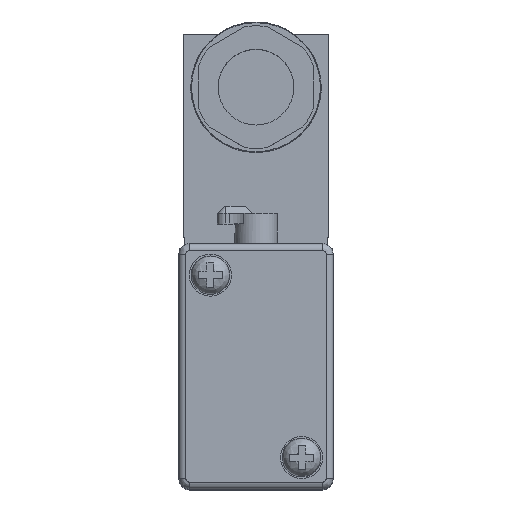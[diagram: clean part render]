
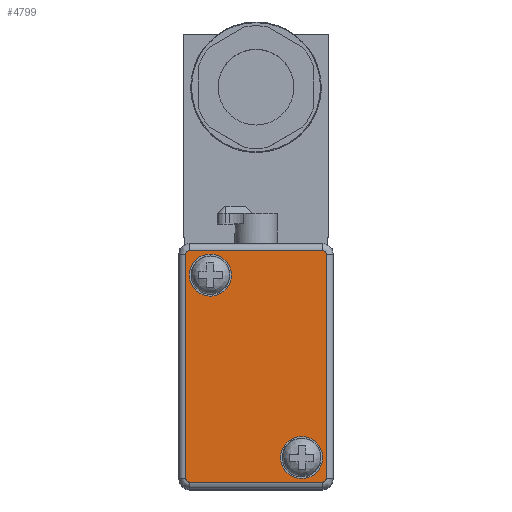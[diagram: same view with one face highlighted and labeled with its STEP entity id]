
A CAD part, top view. The second image highlights one B-rep face of the part: STEP entity #4799.
In plain terms, the highlighted planar face has unit normal (0, 0, 1).
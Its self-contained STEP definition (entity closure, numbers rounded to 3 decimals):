
#101=FACE_BOUND('',#645,.T.);
#102=FACE_BOUND('',#646,.T.);
#366=FACE_OUTER_BOUND('',#644,.T.);
#644=EDGE_LOOP('',(#3897,#3898,#3899,#3900,#3901,#3902,#3903,#3904));
#645=EDGE_LOOP('',(#3905));
#646=EDGE_LOOP('',(#3906));
#811=CIRCLE('',#5198,0.5);
#812=CIRCLE('',#5199,0.5);
#813=CIRCLE('',#5200,0.5);
#814=CIRCLE('',#5201,0.5);
#815=CIRCLE('',#5202,3.);
#816=CIRCLE('',#5203,3.);
#1246=LINE('',#7773,#1717);
#1247=LINE('',#7777,#1718);
#1248=LINE('',#7781,#1719);
#1249=LINE('',#7784,#1720);
#1717=VECTOR('',#6337,1000.);
#1718=VECTOR('',#6340,1000.);
#1719=VECTOR('',#6343,1000.);
#1720=VECTOR('',#6346,1000.);
#2122=VERTEX_POINT('',#7769);
#2123=VERTEX_POINT('',#7770);
#2124=VERTEX_POINT('',#7772);
#2125=VERTEX_POINT('',#7774);
#2126=VERTEX_POINT('',#7776);
#2127=VERTEX_POINT('',#7778);
#2128=VERTEX_POINT('',#7780);
#2129=VERTEX_POINT('',#7782);
#2130=VERTEX_POINT('',#7785);
#2131=VERTEX_POINT('',#7787);
#2729=EDGE_CURVE('',#2122,#2123,#811,.T.);
#2730=EDGE_CURVE('',#2123,#2124,#1246,.T.);
#2731=EDGE_CURVE('',#2124,#2125,#812,.T.);
#2732=EDGE_CURVE('',#2125,#2126,#1247,.T.);
#2733=EDGE_CURVE('',#2126,#2127,#813,.T.);
#2734=EDGE_CURVE('',#2127,#2128,#1248,.T.);
#2735=EDGE_CURVE('',#2128,#2129,#814,.T.);
#2736=EDGE_CURVE('',#2129,#2122,#1249,.T.);
#2737=EDGE_CURVE('',#2130,#2130,#815,.T.);
#2738=EDGE_CURVE('',#2131,#2131,#816,.T.);
#3897=ORIENTED_EDGE('',*,*,#2729,.T.);
#3898=ORIENTED_EDGE('',*,*,#2730,.T.);
#3899=ORIENTED_EDGE('',*,*,#2731,.T.);
#3900=ORIENTED_EDGE('',*,*,#2732,.T.);
#3901=ORIENTED_EDGE('',*,*,#2733,.T.);
#3902=ORIENTED_EDGE('',*,*,#2734,.T.);
#3903=ORIENTED_EDGE('',*,*,#2735,.T.);
#3904=ORIENTED_EDGE('',*,*,#2736,.T.);
#3905=ORIENTED_EDGE('',*,*,#2737,.F.);
#3906=ORIENTED_EDGE('',*,*,#2738,.F.);
#4298=PLANE('',#5197);
#4799=ADVANCED_FACE('',(#366,#101,#102),#4298,.T.);
#5197=AXIS2_PLACEMENT_3D('',#7768,#6333,#6334);
#5198=AXIS2_PLACEMENT_3D('',#7771,#6335,#6336);
#5199=AXIS2_PLACEMENT_3D('',#7775,#6338,#6339);
#5200=AXIS2_PLACEMENT_3D('',#7779,#6341,#6342);
#5201=AXIS2_PLACEMENT_3D('',#7783,#6344,#6345);
#5202=AXIS2_PLACEMENT_3D('',#7786,#6347,#6348);
#5203=AXIS2_PLACEMENT_3D('',#7788,#6349,#6350);
#6333=DIRECTION('center_axis',(0.,0.,1.));
#6334=DIRECTION('ref_axis',(1.,0.,0.));
#6335=DIRECTION('center_axis',(0.,0.,1.));
#6336=DIRECTION('ref_axis',(1.,0.,0.));
#6337=DIRECTION('',(0.,1.,0.));
#6338=DIRECTION('center_axis',(0.,0.,1.));
#6339=DIRECTION('ref_axis',(1.,0.,0.));
#6340=DIRECTION('',(-1.,0.,0.));
#6341=DIRECTION('center_axis',(0.,0.,1.));
#6342=DIRECTION('ref_axis',(1.,0.,0.));
#6343=DIRECTION('',(0.,-1.,0.));
#6344=DIRECTION('center_axis',(0.,0.,1.));
#6345=DIRECTION('ref_axis',(1.,0.,0.));
#6346=DIRECTION('',(1.,0.,0.));
#6347=DIRECTION('center_axis',(0.,0.,1.));
#6348=DIRECTION('ref_axis',(1.,0.,0.));
#6349=DIRECTION('center_axis',(0.,0.,1.));
#6350=DIRECTION('ref_axis',(1.,0.,0.));
#7768=CARTESIAN_POINT('Origin',(-9.5,33.5,109.6));
#7769=CARTESIAN_POINT('',(9.5,1.,109.6));
#7770=CARTESIAN_POINT('',(10.,1.5,109.6));
#7771=CARTESIAN_POINT('Origin',(9.5,1.5,109.6));
#7772=CARTESIAN_POINT('',(10.,33.5,109.6));
#7773=CARTESIAN_POINT('',(10.,33.5,109.6));
#7774=CARTESIAN_POINT('',(9.5,34.,109.6));
#7775=CARTESIAN_POINT('Origin',(9.5,33.5,109.6));
#7776=CARTESIAN_POINT('',(-9.5,34.,109.6));
#7777=CARTESIAN_POINT('',(-9.5,34.,109.6));
#7778=CARTESIAN_POINT('',(-10.,33.5,109.6));
#7779=CARTESIAN_POINT('Origin',(-9.5,33.5,109.6));
#7780=CARTESIAN_POINT('',(-10.,1.5,109.6));
#7781=CARTESIAN_POINT('',(-10.,1.5,109.6));
#7782=CARTESIAN_POINT('',(-9.5,1.,109.6));
#7783=CARTESIAN_POINT('Origin',(-9.5,1.5,109.6));
#7784=CARTESIAN_POINT('',(9.5,1.,109.6));
#7785=CARTESIAN_POINT('',(-9.5,30.5,109.6));
#7786=CARTESIAN_POINT('Origin',(-6.5,30.5,109.6));
#7787=CARTESIAN_POINT('',(3.5,4.5,109.6));
#7788=CARTESIAN_POINT('Origin',(6.5,4.5,109.6));
